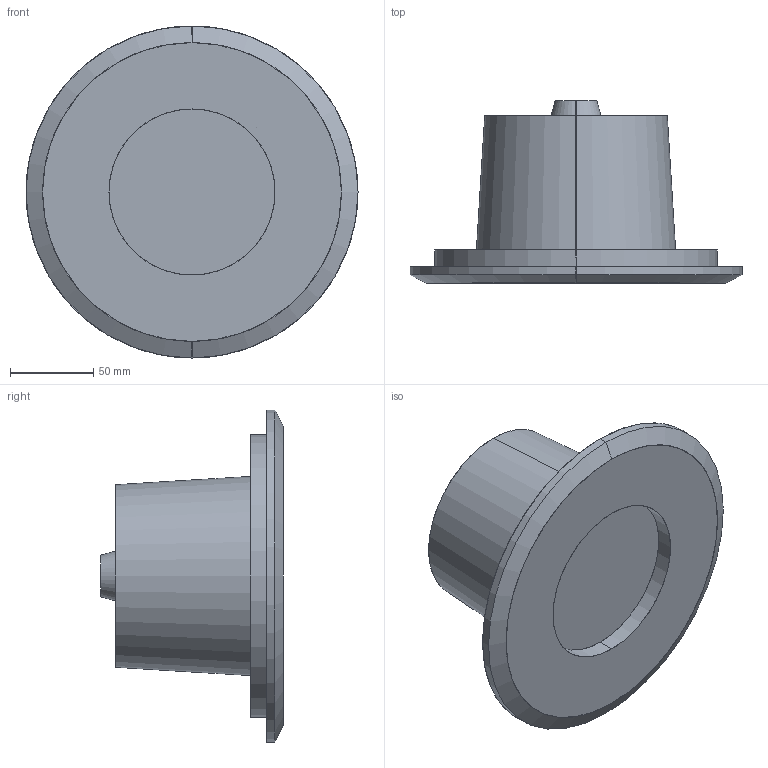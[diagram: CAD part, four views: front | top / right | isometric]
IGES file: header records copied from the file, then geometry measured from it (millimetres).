
Start section: SolidWorks IGES file using analytic representation for surfaces
Global section: file name: C:\Users\danielet\Desktop\3D CARLOS\NEMO-E2047-3D\NEMO-E2047-3D.IGS; native system: SolidWorks 2018; preprocessor: SolidWorks 2018; author: danielet; date: 220127.132417; units: millimetre
Bounding box: 200 x 110 x 200 mm (x, y, z)
Surface area: 103252.4 mm2 (no closed solid volume)
Topology: 0 solids, 0 shells, 18 faces, 624 edges, 624 vertices
Faces by surface type: revolution 12, bspline 6
